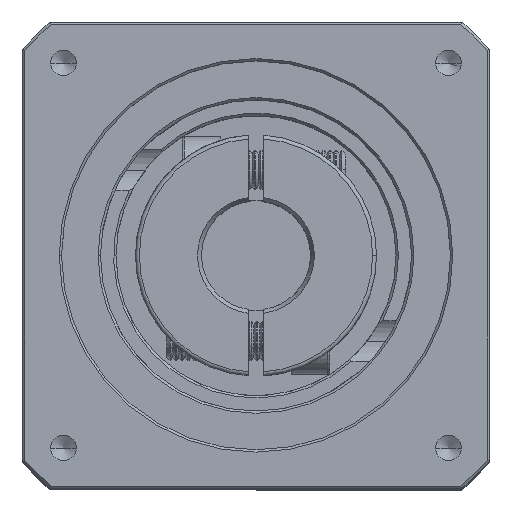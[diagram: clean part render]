
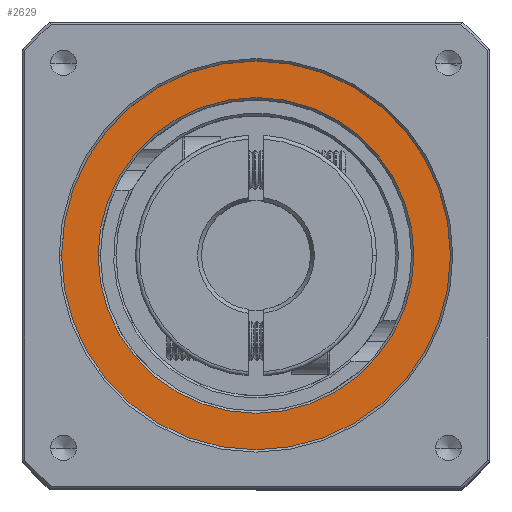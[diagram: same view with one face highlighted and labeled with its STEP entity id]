
A CAD part, top view. The second image highlights one B-rep face of the part: STEP entity #2629.
In plain terms, the highlighted planar face has unit normal (0, 0, 1).
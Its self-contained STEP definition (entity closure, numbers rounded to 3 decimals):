
#2629 = ADVANCED_FACE ( 'NONE', ( #38740, #21021 ), #42004, .T. ) ;
#4203 = ORIENTED_EDGE ( 'NONE', *, *, #8170, .T. ) ;
#5562 = DIRECTION ( 'NONE',  ( 0., 0., 1. ) ) ;
#7084 = DIRECTION ( 'NONE',  ( 0., 0., -1. ) ) ;
#7512 = DIRECTION ( 'NONE',  ( 0., 0., -1. ) ) ;
#8170 = EDGE_CURVE ( 'NONE', #72416, #69415, #47554, .T. ) ;
#11351 = EDGE_CURVE ( 'NONE', #57194, #28058, #49148, .T. ) ;
#16484 = CARTESIAN_POINT ( 'NONE',  ( -84.367, 7.391, -1.11 ) ) ;
#20505 = EDGE_CURVE ( 'NONE', #28058, #57194, #37416, .T. ) ;
#20933 = AXIS2_PLACEMENT_3D ( 'NONE', #47276, #7512, #53990 ) ;
#21021 = FACE_OUTER_BOUND ( 'NONE', #50841, .T. ) ;
#24707 = AXIS2_PLACEMENT_3D ( 'NONE', #75879, #36118, #82487 ) ;
#26587 = ORIENTED_EDGE ( 'NONE', *, *, #65253, .T. ) ;
#26948 = DIRECTION ( 'NONE',  ( 0., 0., 1. ) ) ;
#28058 = VERTEX_POINT ( 'NONE', #29216 ) ;
#29216 = CARTESIAN_POINT ( 'NONE',  ( -39.067, 7.391, -1.11 ) ) ;
#32848 = EDGE_LOOP ( 'NONE', ( #49873, #51169 ) ) ;
#36118 = DIRECTION ( 'NONE',  ( 0., 0., 1. ) ) ;
#37416 = CIRCLE ( 'NONE', #85073, 20.3 ) ;
#38740 = FACE_BOUND ( 'NONE', #32848, .T. ) ;
#41968 = CARTESIAN_POINT ( 'NONE',  ( -34.367, 7.391, -1.11 ) ) ;
#42004 = PLANE ( 'NONE',  #80405 ) ;
#45299 = CARTESIAN_POINT ( 'NONE',  ( -59.367, 7.391, -1.11 ) ) ;
#46869 = CARTESIAN_POINT ( 'NONE',  ( -59.367, 7.391, -1.11 ) ) ;
#47276 = CARTESIAN_POINT ( 'NONE',  ( -59.367, 7.391, -1.11 ) ) ;
#47554 = CIRCLE ( 'NONE', #80385, 25. ) ;
#49148 = CIRCLE ( 'NONE', #20933, 20.3 ) ;
#49873 = ORIENTED_EDGE ( 'NONE', *, *, #20505, .T. ) ;
#50841 = EDGE_LOOP ( 'NONE', ( #4203, #26587 ) ) ;
#51169 = ORIENTED_EDGE ( 'NONE', *, *, #11351, .T. ) ;
#52020 = DIRECTION ( 'NONE',  ( 1., 0., 0. ) ) ;
#53550 = DIRECTION ( 'NONE',  ( 1., 0., 0. ) ) ;
#53990 = DIRECTION ( 'NONE',  ( 1., 0., 0. ) ) ;
#57194 = VERTEX_POINT ( 'NONE', #59587 ) ;
#59587 = CARTESIAN_POINT ( 'NONE',  ( -79.667, 7.391, -1.11 ) ) ;
#65253 = EDGE_CURVE ( 'NONE', #69415, #72416, #73489, .T. ) ;
#66717 = CARTESIAN_POINT ( 'NONE',  ( -59.367, 7.391, -1.11 ) ) ;
#69415 = VERTEX_POINT ( 'NONE', #16484 ) ;
#72416 = VERTEX_POINT ( 'NONE', #41968 ) ;
#73398 = DIRECTION ( 'NONE',  ( 1., 0., 0. ) ) ;
#73489 = CIRCLE ( 'NONE', #24707, 25. ) ;
#75879 = CARTESIAN_POINT ( 'NONE',  ( -59.367, 7.391, -1.11 ) ) ;
#80385 = AXIS2_PLACEMENT_3D ( 'NONE', #66717, #26948, #73398 ) ;
#80405 = AXIS2_PLACEMENT_3D ( 'NONE', #45299, #5562, #52020 ) ;
#82487 = DIRECTION ( 'NONE',  ( 1., 0., 0. ) ) ;
#85073 = AXIS2_PLACEMENT_3D ( 'NONE', #46869, #7084, #53550 ) ;
